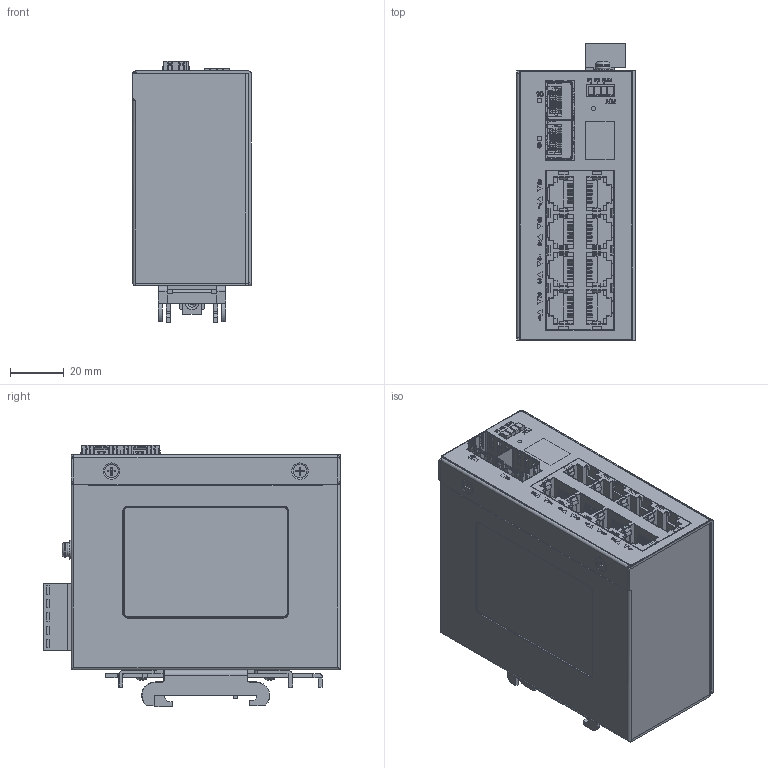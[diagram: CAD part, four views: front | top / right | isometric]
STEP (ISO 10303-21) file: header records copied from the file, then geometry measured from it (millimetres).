
FILE_DESCRIPTION(/* description */ (''),/* implementation_level */ '2;1');
FILE_NAME(/* name */ '2SFP-8RJ-U_STEP.stp',/* time_stamp */ '2026-06-08T17:06:44+08:00',/* author */ ('laozh'),/* organization */ (''),/* preprocessor_version */ 'ST-DEVELOPER v20.1',/* originating_system */ 'Autodesk Inventor 2026',/* authorisation */ '');
FILE_SCHEMA (('AUTOMOTIVE_DESIGN { 1 0 10303 214 3 1 1 }'));
Products named in the file (1): 2SFP-8RJ-U
Bounding box: 44 x 110.2 x 97.28 mm (x, y, z)
Volume: 73361.6 mm3; surface area: 93913.3 mm2
Topology: 1 solids, 1 shells, 6778 faces, 19376 edges, 12461 vertices
Faces by surface type: plane 4760, cylinder 1435, bspline 409, torus 89, cone 74, sphere 11
Full cylindrical faces by diameter (mm): 1 x5, 1.5 x1, 2 x42, 2.4 x11, 2.5 x14, 3 x16, 3.01 x2, 3.4 x2, 3.5 x5, 4 x1, 4.5 x2, 5 x4, 5.3 x1, 6.5 x2, 7 x1
Entity records: 241396 total; most frequent: CARTESIAN_POINT 57009, ORIENTED_EDGE 38744, DIRECTION 34444, EDGE_CURVE 19372, LINE 15226, VECTOR 15226, VERTEX_POINT 12461, AXIS2_PLACEMENT_3D 9609
